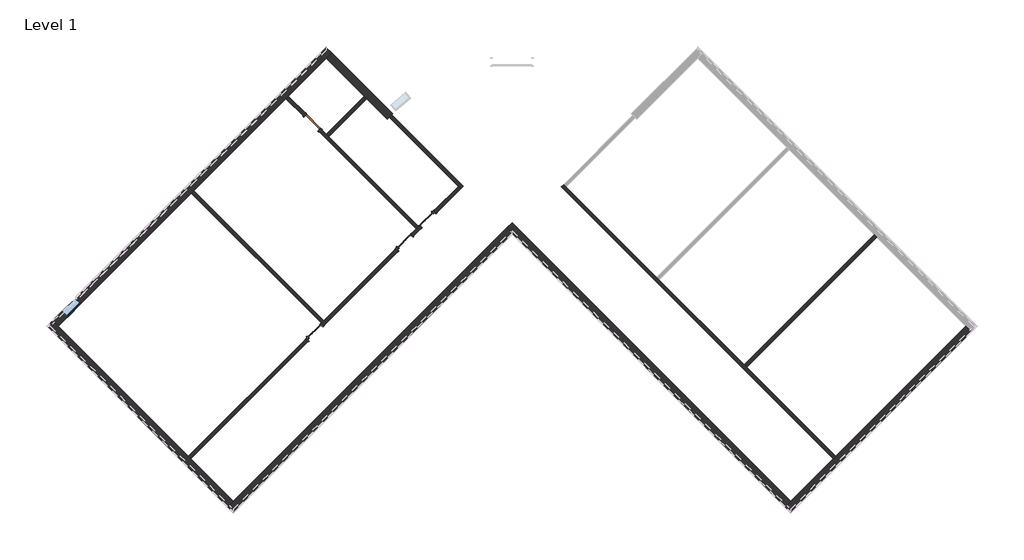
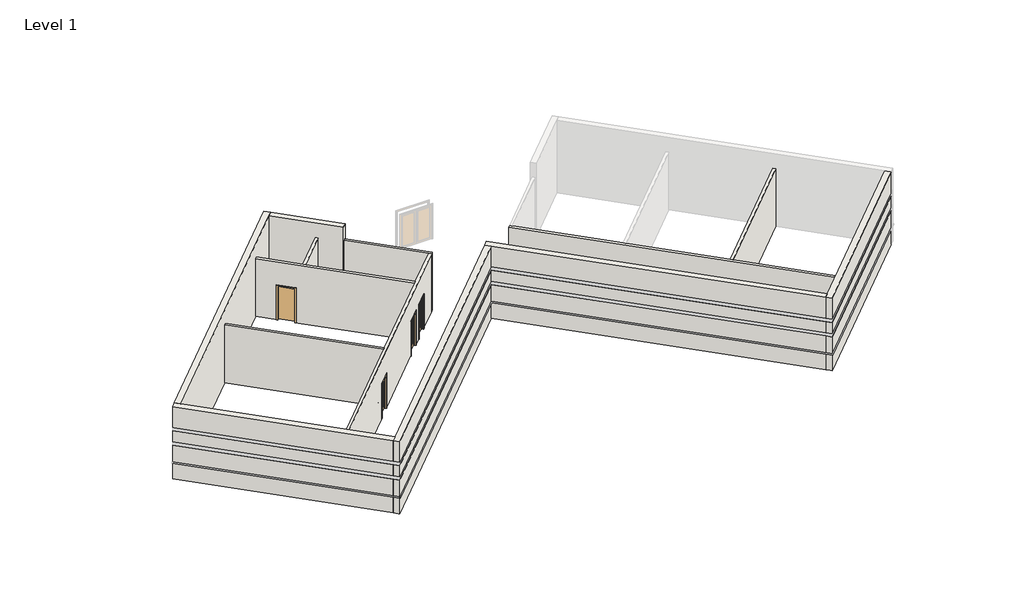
# One storey, part 1 of 2: 13 walls, 4 doors, 1 window.
"""IFC4 building model written with IfcOpenShell, lengths in millimetres."""

from ifc_helpers import new_model, si_unit, frame, origin, origin_with_axes, place, context, project, spatial, polyline, circle_curve, outline, extrude, faceted_brep, transform, mapped, element, save
from ifc_brep_helpers import plane_surface, cylinder_surface, revolved_surface, advanced_brep
from components import door_47956b35, door_87dbb2e6, door_9d26d547, window_15c49d37

model = new_model("IFC4")

# Units and contexts
model_context = context("Model", 3, world=origin())
ifc_project = project(units=[si_unit("LENGTHUNIT", "METRE", prefix="MILLI")], contexts=[model_context])

# Site, building, storey
site = spatial("IfcSite", under=ifc_project)
building = spatial("IfcBuilding", under=site)
storey = spatial("IfcBuildingStorey", under=building, Name="Level 1", Elevation=0.0)

# Doors
placement = place(None, origin())
door_shape = door_47956b35(model_context)
element("IfcDoor", 1, ObjectType="Door-Interior-Single-Full Glass-Wood : 36\" x 84\"", at=placement, inside=storey, context=model_context, shape_type="MappedRepresentation", body=[
    mapped(door_shape, transform((-12030.0168896, -1645.2399237, 0.0), x_axis=(0.7071067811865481, 0.7071067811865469, 0.0), y_axis=(-0.7071067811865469, 0.7071067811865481, 0.0), z_axis=(0.0, 0.0, 1.0))),
])
element("IfcDoor", 2, ObjectType="Door-Interior-Single-Full Glass-Wood : 36\" x 84\"", at=placement, inside=storey, context=model_context, shape_type="MappedRepresentation", body=[
    mapped(door_shape, transform((-7861.0507676, 2523.7261982, 0.0), x_axis=(0.7071067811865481, 0.7071067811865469, 0.0), y_axis=(-0.7071067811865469, 0.7071067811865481, 0.0), z_axis=(0.0, 0.0, 1.0))),
])
door_2_shape = door_87dbb2e6(model_context)
element("IfcDoor", 3, ObjectType="Door-Interior-Single-Full Glass-Wood : 36\" x 84\"", at=placement, inside=storey, context=model_context, shape_type="MappedRepresentation", body=[
    mapped(door_2_shape, transform((-6783.4200331, 3601.3569328, 0.0), x_axis=(-0.7071067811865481, -0.7071067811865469, 0.0), y_axis=(0.7071067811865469, -0.7071067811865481, 0.0), z_axis=(0.0, 0.0, 1.0))),
])
door_3_shape = door_9d26d547(model_context)
element("IfcDoor", 4, ObjectType="Door-Single-Panel : 36\" x 84\"", at=placement, inside=storey, context=model_context, shape_type="MappedRepresentation", body=[
    mapped(door_3_shape, transform((-12135.6526812, 8091.4849933, 0.0), x_axis=(0.7071067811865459, -0.7071067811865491, 0.0), y_axis=(0.7071067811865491, 0.7071067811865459, 0.0), z_axis=(0.0, 0.0, 1.0))),
])

# Walls
element("IfcWall", 5, ObjectType="Exterior - Split Face and CMU on Mtl. Stud", at=placement, inside=storey, context=model_context, shape_type="Brep", body=[
    faceted_brep([(18186.1821115, -1357.9895101, 4572.0), (10063.54045, -9480.6311716, 4572.0), (9814.3383427, -9729.833279, 4572.0), (10063.54045, -9979.0353863, 4572.0), (18435.3842189, -1607.1916175, 4572.0), (18186.1821115, -1357.9895101, 0.0), (12149.2049342, -7394.9666875, 0.0), (12039.1967967, -7504.974825, 0.0), (10063.54045, -9480.6311716, 0.0), (9814.3383427, -9729.833279, 0.0), (9814.3383427, -9729.833279, 1016.0), (9879.4451996, -9664.7264221, 1016.0), (9879.4451996, -9664.7264221, 1085.85), (9814.3383427, -9729.833279, 1085.85), (9814.3383427, -9729.833279, 2133.6), (9879.4451996, -9664.7264221, 2133.6), (9879.4451996, -9664.7264221, 2336.8), (9814.3383427, -9729.833279, 2336.8), (9814.3383427, -9729.833279, 3048.0), (9879.4451996, -9664.7264221, 3048.0), (9879.4451996, -9664.7264221, 3251.2), (9814.3383427, -9729.833279, 3251.2), (10063.54045, -9979.0353863, 3251.2), (18435.3842189, -1607.1916175, 3251.2), (10063.54045, -9979.0353863, 0.0), (18435.3842189, -1607.1916175, 0.0), (18435.3842189, -1607.1916175, 1016.0), (10063.54045, -9979.0353863, 1016.0), (10063.54045, -9979.0353863, 1085.85), (18435.3842189, -1607.1916175, 1085.85), (18435.3842189, -1607.1916175, 2133.6), (10063.54045, -9979.0353863, 2133.6), (10063.54045, -9979.0353863, 2336.8), (18435.3842189, -1607.1916175, 2336.8), (18435.3842189, -1607.1916175, 3048.0), (10063.54045, -9979.0353863, 3048.0), (18370.277362, -1542.0847606, 0.0), (9998.4335932, -9913.9285294, 0.0), (18370.277362, -1542.0847606, 3251.2), (18370.277362, -1542.0847606, 3048.0), (18370.277362, -1542.0847606, 2336.8), (18370.277362, -1542.0847606, 2133.6), (18370.277362, -1542.0847606, 1085.85), (18370.277362, -1542.0847606, 1016.0), (10063.54045, -9848.8216726, 1085.85), (10063.54045, -9848.8216726, 1016.0), (10063.54045, -9848.8216726, 2133.6), (10063.54045, -9848.8216726, 2336.8), (10063.54045, -9848.8216726, 3048.0), (10063.54045, -9848.8216726, 3251.2)], [[[0, 1, 2, 3, 4]], [[5, 6, 7, 8, 9, 10, 11, 12, 13, 14, 15, 16, 17, 18, 19, 20, 21, 2, 1, 0]], [[4, 3, 22, 23]], [[24, 25, 26, 27]], [[28, 29, 30, 31]], [[32, 33, 34, 35]], [[9, 8, 7, 6, 5, 36, 37]], [[5, 0, 4, 23, 38, 39, 34, 33, 40, 41, 30, 29, 42, 43, 26, 25, 36]], [[25, 24, 37, 36]], [[3, 2, 21, 22]], [[9, 37, 24, 27, 10]], [[13, 28, 31, 14]], [[17, 32, 35, 18]], [[12, 44, 42, 29, 28, 13]], [[43, 45, 11, 10, 27, 26]], [[44, 45, 43, 42]], [[45, 44, 12, 11]], [[41, 46, 15, 14, 31, 30]], [[16, 47, 40, 33, 32, 17]], [[47, 46, 41, 40]], [[46, 47, 16, 15]], [[39, 48, 19, 18, 35, 34]], [[20, 49, 38, 23, 22, 21]], [[49, 48, 39, 38]], [[48, 49, 20, 19]]]),
])
element("IfcWall", 6, ObjectType="Exterior - Split Face and CMU on Mtl. Stud", at=placement, inside=storey, context=model_context, shape_type="Brep", body=[
    faceted_brep([(10063.54045, -9480.6311716, 4572.0), (-2868.0283643, 3450.9376427, 4572.0), (-3117.2304717, 3201.7355354, 4572.0), (-2868.0283643, 2952.533428, 4572.0), (9814.3383427, -9729.833279, 4572.0), (10063.54045, -9480.6311716, 0.0), (-2868.0283643, 3450.9376427, 0.0), (-3117.2304717, 3201.7355354, 0.0), (-2868.0283643, 2952.533428, 0.0), (9814.3383427, -9729.833279, 0.0), (9814.3383427, -9729.833279, 1016.0), (-2868.0283643, 2952.533428, 1016.0), (-2933.1352212, 3017.6402849, 1016.0), (-2933.1352212, 3017.6402849, 1085.85), (-2868.0283643, 2952.533428, 1085.85), (9814.3383427, -9729.833279, 1085.85), (9814.3383427, -9729.833279, 2133.6), (-2868.0283643, 2952.533428, 2133.6), (-2933.1352212, 3017.6402849, 2133.6), (-2933.1352212, 3017.6402849, 2336.8), (-2868.0283643, 2952.533428, 2336.8), (9814.3383427, -9729.833279, 2336.8), (9814.3383427, -9729.833279, 3048.0), (-2868.0283643, 2952.533428, 3048.0), (-2933.1352212, 3017.6402849, 3048.0), (-2933.1352212, 3017.6402849, 3251.2), (-2868.0283643, 2952.533428, 3251.2), (9814.3383427, -9729.833279, 3251.2), (9879.4451996, -9664.7264221, 0.0), (-3052.1236148, 3266.8423923, 0.0), (9879.4451996, -9664.7264221, 3251.2), (9879.4451996, -9664.7264221, 3048.0), (9879.4451996, -9664.7264221, 2336.8), (9879.4451996, -9664.7264221, 2133.6), (9879.4451996, -9664.7264221, 1085.85), (9879.4451996, -9664.7264221, 1016.0), (-2868.0283643, 3082.7471418, 1085.85), (-2868.0283643, 3082.7471418, 1016.0), (-2868.0283643, 3082.7471418, 2133.6), (-2868.0283643, 3082.7471418, 2336.8), (-2868.0283643, 3082.7471418, 3048.0), (-2868.0283643, 3082.7471418, 3251.2)], [[[0, 1, 2, 3, 4]], [[5, 6, 1, 0]], [[4, 3, 2, 7, 8, 9, 10, 11, 12, 13, 14, 15, 16, 17, 18, 19, 20, 21, 22, 23, 24, 25, 26, 27]], [[6, 5, 28, 29]], [[5, 0, 4, 27, 30, 31, 22, 21, 32, 33, 16, 15, 34, 35, 10, 9, 28]], [[9, 8, 7, 29, 28]], [[1, 6, 29, 7, 2]], [[13, 36, 34, 15, 14]], [[35, 37, 12, 11, 10]], [[36, 37, 35, 34]], [[37, 36, 13, 12]], [[33, 38, 18, 17, 16]], [[19, 39, 32, 21, 20]], [[39, 38, 33, 32]], [[38, 39, 19, 18]], [[31, 40, 24, 23, 22]], [[25, 41, 30, 27, 26]], [[41, 40, 31, 30]], [[40, 41, 25, 24]]]),
])
element("IfcWall", 7, ObjectType="Exterior - Split Face and CMU on Mtl. Stud", at=placement, inside=storey, context=model_context, shape_type="Brep", body=[
    faceted_brep([(-3117.2304717, 3201.7355354, 4572.0), (-15799.5971786, -9480.6311716, 4572.0), (-16048.799286, -9729.833279, 4572.0), (-15799.5971786, -9979.0353863, 4572.0), (-2868.0283643, 2952.533428, 4572.0), (-3117.2304717, 3201.7355354, 0.0), (-15799.5971786, -9480.6311716, 0.0), (-16048.799286, -9729.833279, 0.0), (-16048.799286, -9729.833279, 1016.0), (-15983.6924291, -9664.7264221, 1016.0), (-15983.6924291, -9664.7264221, 1085.85), (-16048.799286, -9729.833279, 1085.85), (-16048.799286, -9729.833279, 2133.6), (-15983.6924291, -9664.7264221, 2133.6), (-15983.6924291, -9664.7264221, 2336.8), (-16048.799286, -9729.833279, 2336.8), (-16048.799286, -9729.833279, 3048.0), (-15983.6924291, -9664.7264221, 3048.0), (-15983.6924291, -9664.7264221, 3251.2), (-16048.799286, -9729.833279, 3251.2), (-15799.5971786, -9979.0353863, 3251.2), (-2868.0283643, 2952.533428, 3251.2), (-15799.5971786, -9979.0353863, 0.0), (-2868.0283643, 2952.533428, 0.0), (-2868.0283643, 2952.533428, 1016.0), (-15799.5971786, -9979.0353863, 1016.0), (-15799.5971786, -9979.0353863, 1085.85), (-2868.0283643, 2952.533428, 1085.85), (-2868.0283643, 2952.533428, 2133.6), (-15799.5971786, -9979.0353863, 2133.6), (-15799.5971786, -9979.0353863, 2336.8), (-2868.0283643, 2952.533428, 2336.8), (-2868.0283643, 2952.533428, 3048.0), (-15799.5971786, -9979.0353863, 3048.0), (-2933.1352212, 3017.6402849, 0.0), (-15864.7040355, -9913.9285294, 0.0), (-2933.1352212, 3017.6402849, 3251.2), (-2933.1352212, 3017.6402849, 3048.0), (-2933.1352212, 3017.6402849, 2336.8), (-2933.1352212, 3017.6402849, 2133.6), (-2933.1352212, 3017.6402849, 1085.85), (-2933.1352212, 3017.6402849, 1016.0), (-15799.5971786, -9848.8216726, 1085.85), (-15799.5971786, -9848.8216726, 1016.0), (-15799.5971786, -9848.8216726, 2133.6), (-15799.5971786, -9848.8216726, 2336.8), (-15799.5971786, -9848.8216726, 3048.0), (-15799.5971786, -9848.8216726, 3251.2)], [[[0, 1, 2, 3, 4]], [[5, 6, 7, 8, 9, 10, 11, 12, 13, 14, 15, 16, 17, 18, 19, 2, 1, 0]], [[4, 3, 20, 21]], [[22, 23, 24, 25]], [[26, 27, 28, 29]], [[30, 31, 32, 33]], [[7, 6, 5, 34, 35]], [[5, 0, 4, 21, 36, 37, 32, 31, 38, 39, 28, 27, 40, 41, 24, 23, 34]], [[23, 22, 35, 34]], [[3, 2, 19, 20]], [[7, 35, 22, 25, 8]], [[11, 26, 29, 12]], [[15, 30, 33, 16]], [[10, 42, 40, 27, 26, 11]], [[41, 43, 9, 8, 25, 24]], [[42, 43, 41, 40]], [[43, 42, 10, 9]], [[39, 44, 13, 12, 29, 28]], [[14, 45, 38, 31, 30, 15]], [[45, 44, 39, 38]], [[44, 45, 14, 13]], [[37, 46, 17, 16, 33, 32]], [[18, 47, 36, 21, 20, 19]], [[47, 46, 37, 36]], [[46, 47, 18, 17]]]),
])
element("IfcWall", 8, ObjectType="Exterior - Split Face and CMU on Mtl. Stud", at=placement, inside=storey, context=model_context, shape_type="Brep", body=[
    faceted_brep([(-15799.5971786, -9480.6311716, 4572.0), (-23922.2388402, -1357.9895101, 4572.0), (-24171.4409475, -1108.7874027, 4572.0), (-24420.6430549, -1357.9895101, 4572.0), (-16048.799286, -9729.833279, 4572.0), (-15799.5971786, -9480.6311716, 0.0), (-17775.2535253, -7504.974825, 0.0), (-17885.2616628, -7394.9666875, 0.0), (-23922.2388402, -1357.9895101, 0.0), (-24171.4409475, -1108.7874027, 0.0), (-24171.4409475, -1108.7874027, 1016.0), (-24106.3340906, -1173.8942596, 1016.0), (-24106.3340906, -1173.8942596, 1085.85), (-24171.4409475, -1108.7874027, 1085.85), (-24171.4409475, -1108.7874027, 2133.6), (-24106.3340906, -1173.8942596, 2133.6), (-24106.3340906, -1173.8942596, 2336.8), (-24171.4409475, -1108.7874027, 2336.8), (-24171.4409475, -1108.7874027, 3048.0), (-24106.3340906, -1173.8942596, 3048.0), (-24106.3340906, -1173.8942596, 3251.2), (-24171.4409475, -1108.7874027, 3251.2), (-24420.6430549, -1357.9895101, 3251.2), (-16048.799286, -9729.833279, 3251.2), (-24420.6430549, -1357.9895101, 0.0), (-16048.799286, -9729.833279, 0.0), (-16048.799286, -9729.833279, 1016.0), (-24420.6430549, -1357.9895101, 1016.0), (-24420.6430549, -1357.9895101, 1085.85), (-16048.799286, -9729.833279, 1085.85), (-16048.799286, -9729.833279, 2133.6), (-24420.6430549, -1357.9895101, 2133.6), (-24420.6430549, -1357.9895101, 2336.8), (-16048.799286, -9729.833279, 2336.8), (-16048.799286, -9729.833279, 3048.0), (-24420.6430549, -1357.9895101, 3048.0), (-15983.6924291, -9664.7264221, 0.0), (-24355.536198, -1292.8826532, 0.0), (-15983.6924291, -9664.7264221, 3251.2), (-15983.6924291, -9664.7264221, 3048.0), (-15983.6924291, -9664.7264221, 2336.8), (-15983.6924291, -9664.7264221, 2133.6), (-15983.6924291, -9664.7264221, 1085.85), (-15983.6924291, -9664.7264221, 1016.0), (-24290.4293411, -1357.9895101, 1085.85), (-24290.4293411, -1357.9895101, 1016.0), (-24290.4293411, -1357.9895101, 2133.6), (-24290.4293411, -1357.9895101, 2336.8), (-24290.4293411, -1357.9895101, 3048.0), (-24290.4293411, -1357.9895101, 3251.2)], [[[0, 1, 2, 3, 4]], [[5, 6, 7, 8, 9, 10, 11, 12, 13, 14, 15, 16, 17, 18, 19, 20, 21, 2, 1, 0]], [[4, 3, 22, 23]], [[24, 25, 26, 27]], [[28, 29, 30, 31]], [[32, 33, 34, 35]], [[9, 8, 7, 6, 5, 36, 37]], [[5, 0, 4, 23, 38, 39, 34, 33, 40, 41, 30, 29, 42, 43, 26, 25, 36]], [[25, 24, 37, 36]], [[3, 2, 21, 22]], [[9, 37, 24, 27, 10]], [[13, 28, 31, 14]], [[17, 32, 35, 18]], [[12, 44, 42, 29, 28, 13]], [[43, 45, 11, 10, 27, 26]], [[44, 45, 43, 42]], [[45, 44, 12, 11]], [[41, 46, 15, 14, 31, 30]], [[16, 47, 40, 33, 32, 17]], [[47, 46, 41, 40]], [[46, 47, 16, 15]], [[39, 48, 19, 18, 35, 34]], [[20, 49, 38, 23, 22, 21]], [[49, 48, 39, 38]], [[48, 49, 20, 19]]]),
])
element("IfcWall", 9, ObjectType="Exterior - Split Face and CMU on Mtl. Stud", at=placement, inside=storey, context=model_context, shape_type="Brep", body=[
    faceted_brep([(-23922.2388402, -1357.9895101, 4572.0), (-11489.0742405, 11075.1750895, 4572.0), (-11239.8721332, 11324.3771969, 4572.0), (-11489.0742405, 11573.5793042, 4572.0), (-24171.4409475, -1108.7874027, 4572.0), (-23922.2388402, -1357.9895101, 0.0), (-17743.7048466, 4820.5444835, 0.0), (-17633.6967091, 4930.552621, 0.0), (-13359.2125777, 9205.0367523, 0.0), (-13249.2044403, 9315.0448898, 0.0), (-11489.0742405, 11075.1750895, 0.0), (-11239.8721332, 11324.3771969, 0.0), (-11239.8721332, 11324.3771969, 1016.0), (-11304.9789901, 11259.27034, 1016.0), (-11304.9789901, 11259.27034, 1085.85), (-11239.8721332, 11324.3771969, 1085.85), (-11239.8721332, 11324.3771969, 2133.6), (-11304.9789901, 11259.27034, 2133.6), (-11304.9789901, 11259.27034, 2336.8), (-11239.8721332, 11324.3771969, 2336.8), (-11239.8721332, 11324.3771969, 3048.0), (-11304.9789901, 11259.27034, 3048.0), (-11304.9789901, 11259.27034, 3251.2), (-11239.8721332, 11324.3771969, 3251.2), (-23508.0245266, -943.7751965, 914.4), (-23508.0245266, -943.7751965, 2133.6), (-22861.4460859, -297.1967558, 2133.6), (-22861.4460859, -297.1967558, 914.4), (-11489.0742405, 11573.5793042, 3251.2), (-24171.4409475, -1108.7874027, 3251.2), (-11489.0742405, 11573.5793042, 0.0), (-24171.4409475, -1108.7874027, 0.0), (-24171.4409475, -1108.7874027, 1016.0), (-23757.2266339, -694.5730891, 1016.0), (-23757.2266339, -694.5730891, 914.4), (-23110.6481932, -47.9946484, 914.4), (-23110.6481932, -47.9946484, 1016.0), (-11489.0742405, 11573.5793042, 1016.0), (-23110.6481932, -47.9946484, 2133.6), (-23757.2266339, -694.5730891, 2133.6), (-23757.2266339, -694.5730891, 2336.8), (-24171.4409475, -1108.7874027, 2336.8), (-24171.4409475, -1108.7874027, 3048.0), (-11489.0742405, 11573.5793042, 3048.0), (-11489.0742405, 11573.5793042, 2336.8), (-23110.6481932, -47.9946484, 2336.8), (-23757.2266339, -694.5730891, 1085.85), (-24171.4409475, -1108.7874027, 1085.85), (-24171.4409475, -1108.7874027, 2133.6), (-23110.6481932, -47.9946484, 1085.85), (-11489.0742405, 11573.5793042, 2133.6), (-11489.0742405, 11573.5793042, 1085.85), (-24106.3340906, -1173.8942596, 0.0), (-11423.9673837, 11508.4724474, 0.0), (-24106.3340906, -1173.8942596, 3251.2), (-24106.3340906, -1173.8942596, 3048.0), (-24106.3340906, -1173.8942596, 2336.8), (-24106.3340906, -1173.8942596, 2133.6), (-24106.3340906, -1173.8942596, 1085.85), (-24106.3340906, -1173.8942596, 1016.0), (-23692.119777, -759.679946, 1016.0), (-23692.119777, -759.679946, 1085.85), (-23692.119777, -759.679946, 2133.6), (-23045.5413363, -113.1015053, 2133.6), (-23045.5413363, -113.1015053, 1085.85), (-23045.5413363, -113.1015053, 1016.0), (-11489.0742405, 11443.3655905, 1085.85), (-11489.0742405, 11443.3655905, 1016.0), (-23692.119777, -759.679946, 2133.6), (-23692.119777, -759.679946, 2336.8), (-23045.5413363, -113.1015053, 2133.6), (-23045.5413363, -113.1015053, 2336.8), (-11489.0742405, 11443.3655905, 2133.6), (-11489.0742405, 11443.3655905, 2336.8), (-11489.0742405, 11443.3655905, 3048.0), (-11489.0742405, 11443.3655905, 3251.2)], [[[0, 1, 2, 3, 4]], [[5, 6, 7, 8, 9, 10, 11, 12, 13, 14, 15, 16, 17, 18, 19, 20, 21, 22, 23, 2, 1, 0], [24, 25, 26, 27]], [[4, 3, 28, 29]], [[30, 31, 32, 33, 34, 35, 36, 37]], [[38, 39, 40, 41, 42, 43, 44, 45]], [[39, 46, 47, 48]], [[49, 38, 50, 51]], [[11, 10, 9, 8, 7, 6, 5, 52, 53]], [[5, 0, 4, 29, 54, 55, 42, 41, 56, 57, 48, 47, 58, 59, 32, 31, 52]], [[31, 30, 53, 52]], [[3, 2, 23, 28]], [[11, 53, 30, 37, 12]], [[15, 51, 50, 16]], [[19, 44, 43, 20]], [[25, 24, 34, 33, 60, 61, 46, 39, 62]], [[35, 34, 24, 27]], [[27, 26, 63, 38, 49, 64, 65, 36, 35]], [[39, 38, 63, 26, 25, 62]], [[61, 58, 47, 46]], [[59, 60, 33, 32]], [[58, 61, 60, 59]], [[66, 64, 49, 51, 15, 14]], [[65, 67, 13, 12, 37, 36]], [[64, 66, 67, 65]], [[67, 66, 14, 13]], [[68, 39, 48, 57]], [[40, 69, 56, 41]], [[39, 68, 69, 40]], [[69, 68, 57, 56]], [[70, 38, 45, 71]], [[38, 70, 72, 17, 16, 50]], [[70, 71, 73, 72]], [[71, 45, 44, 19, 18, 73]], [[72, 73, 18, 17]], [[55, 74, 21, 20, 43, 42]], [[22, 75, 54, 29, 28, 23]], [[75, 74, 55, 54]], [[74, 75, 22, 21]]]),
])
element("IfcWall", 10, ObjectType="Exterior - Split Face and CMU on Mtl. Stud", at=placement, inside=storey, context=model_context, shape_type="AdvancedBrep", body=[
    advanced_brep(
    [(-11489.0742405, 11075.1750895, 4572.0), (-8658.0122729, 8244.1131219, 4572.0), (-8413.2817722, 8497.7868359, 4572.0), (-8662.486224, 8746.9912878, 4572.0), (-11239.8721332, 11324.3771969, 4572.0), (-11489.0742405, 11075.1750895, 0.0), (-9728.9440408, 9315.0448898, 0.0), (-9618.9359033, 9205.0367523, 0.0), (-8658.0122729, 8244.1131219, 0.0), (-8413.2817722, 8497.7868359, 0.0), (-8662.486224, 8746.9912878, 0.0), (-11239.8721332, 11324.3771969, 0.0), (-11239.8721332, 11324.3771969, 1016.0), (-8662.486224, 8746.9912878, 1016.0), (-8597.3787742, 8681.8838379, 1016.0), (-8597.3787742, 8681.8838379, 1085.85), (-8662.486224, 8746.9912878, 1085.85), (-11239.8721332, 11324.3771969, 1085.85), (-11239.8721332, 11324.3771969, 2133.6), (-8662.486224, 8746.9912878, 2133.6), (-8597.3787742, 8681.8838379, 2133.6), (-8597.3787742, 8681.8838379, 2336.8), (-8662.486224, 8746.9912878, 2336.8), (-11239.8721332, 11324.3771969, 2336.8), (-11239.8721332, 11324.3771969, 3048.0), (-8662.486224, 8746.9912878, 3048.0), (-8597.3787742, 8681.8838379, 3048.0), (-8597.3787742, 8681.8838379, 3251.2), (-8662.486224, 8746.9912878, 3251.2), (-11239.8721332, 11324.3771969, 3251.2), (-11304.9789901, 11259.27034, 0.0), (-8478.2967797, 8432.5881297, 0.0), (-11304.9789901, 11259.27034, 3251.2), (-11304.9789901, 11259.27034, 3048.0), (-11304.9789901, 11259.27034, 2336.8), (-11304.9789901, 11259.27034, 2133.6), (-11304.9789901, 11259.27034, 1085.85), (-11304.9789901, 11259.27034, 1016.0), (-8662.3967205, 8616.6880705, 1085.85), (-8662.3967205, 8616.6880705, 1016.0), (-8662.3967205, 8616.6880705, 2336.8), (-8662.3967205, 8616.6880705, 2133.6), (-8662.3967205, 8616.6880705, 3251.2), (-8662.3967205, 8616.6880705, 3048.0)],
    [
        (0, 1),
        (1, 2, circle_curve(frame((-2868.0283643, 2903.1420194, 4572.0), z_axis=(0.0, 0.0, -1.0), x_axis=(1.0, 0.0, 0.0)), 7877.175)),
        (2, 3),
        (3, 4),
        (4, 0),
        (5, 6),
        (6, 7),
        (7, 8),
        (8, 1),
        (0, 5),
        (2, 9),
        (9, 10),
        (10, 11),
        (11, 12),
        (12, 13),
        (13, 14),
        (14, 15),
        (15, 16),
        (16, 17),
        (17, 18),
        (18, 19),
        (19, 20),
        (20, 21),
        (21, 22),
        (22, 23),
        (23, 24),
        (24, 25),
        (25, 26),
        (26, 27),
        (27, 28),
        (28, 29),
        (29, 4),
        (5, 30),
        (30, 31),
        (31, 8, circle_curve(frame((-2868.0283643, 2903.1420194, 0.0), z_axis=(0.0, 0.0, 1.0), x_axis=(1.0, 0.0, 0.0)), 7877.175)),
        (29, 32),
        (32, 33),
        (33, 24),
        (23, 34),
        (34, 35),
        (35, 18),
        (17, 36),
        (36, 37),
        (37, 12),
        (11, 30),
        (9, 31, circle_curve(frame((-2868.0283643, 2903.1420194, 0.0), z_axis=(0.0, 0.0, 1.0), x_axis=(1.0, 0.0, 0.0)), 7877.175)),
        (38, 39),
        (39, 37),
        (36, 38),
        (15, 38, circle_curve(frame((-2868.0283643, 2903.1420194, 1085.85), z_axis=(0.0, 0.0, 1.0), x_axis=(-0.7040995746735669, 0.7101012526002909, 0.0)), 8137.525)),
        (39, 14, circle_curve(frame((-2868.0283643, 2903.1420194, 1016.0), z_axis=(0.0, 0.0, -1.0), x_axis=(-0.7040995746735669, 0.7101012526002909, 0.0)), 8137.525)),
        (40, 41),
        (41, 35),
        (34, 40),
        (41, 20, circle_curve(frame((-2868.0283643, 2903.1420194, 2133.6), z_axis=(0.0, 0.0, -1.0), x_axis=(-0.7120553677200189, 0.7021233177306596, 0.0)), 8137.525)),
        (40, 21, circle_curve(frame((-2868.0283643, 2903.1420194, 2336.8), z_axis=(0.0, 0.0, -1.0), x_axis=(-0.7120553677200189, 0.7021233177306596, 0.0)), 8137.525)),
        (42, 43),
        (43, 33),
        (32, 42),
        (43, 26, circle_curve(frame((-2868.0283643, 2903.1420194, 3048.0), z_axis=(0.0, 0.0, -1.0), x_axis=(-0.7120553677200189, 0.7021233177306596, 0.0)), 8137.525)),
        (42, 27, circle_curve(frame((-2868.0283643, 2903.1420194, 3251.2), z_axis=(0.0, 0.0, -1.0), x_axis=(-0.7120553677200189, 0.7021233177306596, 0.0)), 8137.525)),
    ],
    [
        plane_surface(frame((-8786.2632499, 8372.3640989, 4572.0), z_axis=(0.0, 0.0, 1.0), x_axis=(0.7071067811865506, 0.7071067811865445, 0.0))),
        plane_surface(frame((-11738.2763479, 11324.3771969, 0.0), z_axis=(-0.7071067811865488, -0.7071067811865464, 0.0), x_axis=(0.7071067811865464, -0.7071067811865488, 0.0))),
        plane_surface(frame((-11489.0742405, 11573.5793042, 0.0), z_axis=(0.7071067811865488, 0.7071067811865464, 0.0), x_axis=(-0.7071067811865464, 0.7071067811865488, 0.0))),
        plane_surface(frame((-11613.6752942, 11199.7761432, 0.0), z_axis=(0.0, 0.0, -1.0000000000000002), x_axis=(0.7071067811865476, 0.7071067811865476, 0.0))),
        plane_surface(frame((-24171.4409475, -1607.1916175, 0.0), z_axis=(-0.7071067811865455, 0.7071067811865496, 0.0), x_axis=(0.7071067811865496, 0.7071067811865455, 0.0))),
        plane_surface(frame((0.0, 0.0, 0.0), z_axis=(0.0, 0.0, -1.0), x_axis=(1.0, 0.0, 0.0))),
        revolved_surface(polyline([(5009.146635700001, 2903.1420194, 0.0), (5009.146635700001, 2903.1420194, 4572.0)]), (-2868.0283643, 2903.1420194, 0.0), (0.0, 0.0, -1.0)),
        plane_surface(frame((-11489.0742405, 11443.3655905, 1016.0), z_axis=(0.7071067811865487, 0.7071067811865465, 0.0), x_axis=(0.7071067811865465, -0.7071067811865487, 0.0))),
        plane_surface(frame((-2868.0283643, 2903.1420194, 1085.85), z_axis=(0.0, 0.0, -1.0), x_axis=(-0.7040995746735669, 0.7101012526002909, 0.0))),
        plane_surface(frame((-2868.0283643, 2903.1420194, 1016.0), z_axis=(0.0, 0.0, 1.0), x_axis=(-0.7040995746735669, 0.7101012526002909, 0.0))),
        cylinder_surface(frame((-2868.0283643, 2903.1420194, 1016.0), z_axis=(0.0, 0.0, -1.0), x_axis=(-0.7040995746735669, 0.7101012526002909, 0.0)), 8137.525),
        plane_surface(frame((-11489.0742405, 11443.3655905, 2133.6), z_axis=(0.7071067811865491, 0.7071067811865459, 0.0), x_axis=(0.7071067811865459, -0.7071067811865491, 0.0))),
        plane_surface(frame((-2868.0283643, 2903.1420194, 2133.6), z_axis=(0.0, 0.0, 1.0), x_axis=(-0.7120553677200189, 0.7021233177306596, 0.0))),
        cylinder_surface(frame((-2868.0283643, 2903.1420194, 2133.6), z_axis=(0.0, 0.0, -1.0), x_axis=(-0.7120553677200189, 0.7021233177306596, 0.0)), 8137.525),
        plane_surface(frame((-2868.0283643, 2903.1420194, 2336.8), z_axis=(0.0, 0.0, -1.0), x_axis=(-0.7120553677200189, 0.7021233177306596, 0.0))),
        plane_surface(frame((-11489.0742405, 11443.3655905, 3048.0), z_axis=(0.7071067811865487, 0.7071067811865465, 0.0), x_axis=(0.7071067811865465, -0.7071067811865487, 0.0))),
        plane_surface(frame((-2868.0283643, 2903.1420194, 3048.0), z_axis=(0.0, 0.0, 1.0), x_axis=(-0.7120553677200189, 0.7021233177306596, 0.0))),
        cylinder_surface(frame((-2868.0283643, 2903.1420194, 3048.0), z_axis=(0.0, 0.0, -1.0), x_axis=(-0.7120553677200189, 0.7021233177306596, 0.0)), 8137.525),
        plane_surface(frame((-2868.0283643, 2903.1420194, 3251.2), z_axis=(0.0, 0.0, -1.0), x_axis=(-0.7120553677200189, 0.7021233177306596, 0.0))),
    ],
    [
        (0, [[1, 2, 3, 4, 5]]),
        (1, [[6, 7, 8, 9, -1, 10]]),
        (2, [[-4, -3, 11, 12, 13, 14, 15, 16, 17, 18, 19, 20, 21, 22, 23, 24, 25, 26, 27, 28, 29, 30, 31, 32]]),
        (3, [[-8, -7, -6, 33, 34, 35]]),
        (4, [[-10, -5, -32, 36, 37, 38, -26, 39, 40, 41, -20, 42, 43, 44, -14, 45, -33]]),
        (5, [[-13, -12, 46, -34, -45]]),
        (6, [[-9, -35, -46, -11, -2]]),
        (7, [[47, 48, -43, 49]]),
        (8, [[50, -49, -42, -19, -18]]),
        (9, [[-48, 51, -16, -15, -44]]),
        (10, [[-47, -50, -17, -51]]),
        (11, [[52, 53, -40, 54]]),
        (12, [[-53, 55, -22, -21, -41]]),
        (13, [[-52, 56, -23, -55]]),
        (14, [[-56, -54, -39, -25, -24]]),
        (15, [[57, 58, -37, 59]]),
        (16, [[-58, 60, -28, -27, -38]]),
        (17, [[-57, 61, -29, -60]]),
        (18, [[-61, -59, -36, -31, -30]]),
    ],
),
])
element("IfcWall", 11, ObjectType="Interior - 6 1/8\" Partition (2-hr)", at=placement, inside=storey, context=model_context, shape_type="Brep", body=[
    faceted_brep([(-17775.2535253, -7504.974825, 0.0), (-17885.2616628, -7394.9666875, 0.0), (-12424.0256269, -1933.7306516, 0.0), (-12314.0174894, -2043.7387891, 0.0), (-5348.5885532, 5141.7064221, 0.0), (-5238.5804157, 5031.6982846, 0.0), (-6384.9211677, 3885.3575326, 0.0), (-6494.9293052, 3995.3656701, 0.0), (-11631.5180242, -1361.2393239, 0.0), (-11741.5261617, -1251.2311864, 0.0), (-11706.7276692, -1216.4326939, 0.0), (-11596.7195317, -1106.4245564, 0.0), (-8255.0595049, 2235.2354703, 0.0), (-8145.0513674, 2125.2273329, 0.0), (-7462.5519022, 2807.7267981, 0.0), (-7572.5600397, 2917.7349356, 0.0), (-7322.2354004, 3168.0595749, 0.0), (-7212.2272629, 3278.0677124, 0.0), (-7177.4287704, 3312.8662049, 0.0), (-7067.4206329, 3202.8580674, 0.0), (-17775.2535253, -7504.974825, 3657.6), (-5238.5804157, 5031.6982846, 3657.6), (-5348.5885532, 5141.7064221, 3657.6), (-7212.2272629, 3278.0677124, 3657.6), (-7322.2354004, 3168.0595749, 3657.6), (-11596.7195317, -1106.4245564, 3657.6), (-11706.7276692, -1216.4326939, 3657.6), (-17885.2616628, -7394.9666875, 3657.6), (-12314.0174894, -2043.7387891, 2159.0), (-11631.5180242, -1361.2393239, 2159.0), (-8145.0513674, 2125.2273329, 2159.0), (-7462.5519022, 2807.7267981, 2159.0), (-7067.4206329, 3202.8580674, 2159.0), (-6384.9211677, 3885.3575326, 2159.0), (-6494.9293052, 3995.3656701, 2159.0), (-7177.4287704, 3312.8662049, 2159.0), (-7572.5600397, 2917.7349356, 2159.0), (-8255.0595049, 2235.2354703, 2159.0), (-11741.5261617, -1251.2311864, 2159.0), (-12424.0256269, -1933.7306516, 2159.0)], [[[0, 1, 2, 3]], [[4, 5, 6, 7]], [[8, 9, 10, 11, 12, 13]], [[14, 15, 16, 17, 18, 19]], [[20, 21, 22, 23, 24, 25, 26, 27]], [[21, 20, 0, 3, 28, 29, 8, 13, 30, 31, 14, 19, 32, 33, 6, 5]], [[27, 26, 25, 24, 23, 22, 4, 7, 34, 35, 18, 17, 16, 15, 36, 37, 12, 11, 10, 9, 38, 39, 2, 1]], [[0, 20, 27, 1]], [[21, 5, 4, 22]], [[29, 38, 9, 8]], [[38, 29, 28, 39]], [[39, 28, 3, 2]], [[31, 36, 15, 14]], [[36, 31, 30, 37]], [[37, 30, 13, 12]], [[35, 32, 19, 18]], [[32, 35, 34, 33]], [[33, 34, 7, 6]]]),
])
element("IfcWall", 12, ObjectType="Interior - 6 1/8\" Partition (2-hr)", at=placement, inside=storey, context=model_context, shape_type="Brep", body=[
    faceted_brep([(-7322.2354004, 3168.0595749, 0.0), (-11867.3675296, 7713.1917042, 0.0), (-11757.3593921, 7823.1998417, 0.0), (-11489.0742405, 7554.9146901, 0.0), (-11379.066103, 7444.9065526, 0.0), (-7212.2272629, 3278.0677124, 0.0), (-12513.9459703, 8359.7701449, 0.0), (-13359.2125777, 9205.0367523, 0.0), (-13249.2044403, 9315.0448898, 0.0), (-12403.9378329, 8469.7782824, 0.0), (-7212.2272629, 3278.0677124, 3657.6), (-11379.066103, 7444.9065526, 3657.6), (-11489.0742405, 7554.9146901, 3657.6), (-13249.2044403, 9315.0448898, 3657.6), (-13359.2125777, 9205.0367523, 3657.6), (-7322.2354004, 3168.0595749, 3657.6), (-11757.3593921, 7823.1998417, 2133.6), (-12403.9378329, 8469.7782824, 2133.6), (-11867.3675296, 7713.1917042, 2133.6), (-12513.9459703, 8359.7701449, 2133.6)], [[[0, 1, 2, 3, 4, 5]], [[6, 7, 8, 9]], [[10, 11, 12, 13, 14, 15]], [[5, 4, 3, 2, 16, 17, 9, 8, 13, 12, 11, 10]], [[18, 1, 0, 15, 14, 7, 6, 19]], [[13, 8, 7, 14]], [[5, 10, 15, 0]], [[16, 2, 1, 18]], [[17, 16, 18, 19]], [[9, 17, 19, 6]]]),
])
element("IfcWall", 13, ObjectType="Interior - 6 1/8\" Partition (2-hr)", at=placement, inside=storey, context=model_context, shape_type="AdvancedBrep", body=[
    advanced_brep(
    [(-5128.5722782, 5141.7064221, 0.0), (-8449.0111375, 8462.1452813, 0.0), (-8449.0111375, 8462.1452813, 3657.6), (-5128.5722782, 5141.7064221, 3657.6), (-5238.5804157, 5031.6982846, 0.0), (-5238.5804157, 5031.6982846, 3657.6), (-5348.5885532, 5141.7064221, 3657.6), (-8557.7157352, 8350.8336041, 3657.6), (-8557.7157352, 8350.8336041, 0.0), (-5348.5885532, 5141.7064221, 0.0)],
    [
        (0, 1),
        (1, 2),
        (2, 3),
        (3, 0),
        (4, 5),
        (5, 6),
        (6, 7),
        (7, 8),
        (8, 9),
        (9, 4),
        (0, 4),
        (8, 1, circle_curve(frame((-2868.0283643, 2903.1420194, 0.0), z_axis=(0.0, 0.0, -1.0), x_axis=(1.0, 0.0, 0.0)), 7877.175)),
        (2, 7, circle_curve(frame((-2868.0283643, 2903.1420194, 3657.6), z_axis=(0.0, 0.0, 1.0), x_axis=(1.0, 0.0, 0.0)), 7877.175)),
        (5, 3),
    ],
    [
        plane_surface(frame((-5183.576347, 5196.7104908, 0.0), z_axis=(0.7071067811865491, 0.7071067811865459, 0.0), x_axis=(-0.7071067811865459, 0.7071067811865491, 0.0))),
        plane_surface(frame((-5293.5844845, 5086.7023533, 0.0), z_axis=(-0.7071067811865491, -0.7071067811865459, 0.0), x_axis=(0.7071067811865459, -0.7071067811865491, 0.0))),
        plane_surface(frame((-5183.576347, 5196.7104908, 0.0), z_axis=(0.0, 0.0, -1.0), x_axis=(-0.707106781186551, -0.7071067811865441, 0.0))),
        plane_surface(frame((-8573.2406241, 8586.374768, 3657.6), z_axis=(0.0, 0.0, 1.0), x_axis=(-0.707106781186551, -0.7071067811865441, 0.0))),
        plane_surface(frame((-17899.854579, -7629.5758786, 0.0), z_axis=(0.7071067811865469, -0.7071067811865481, 0.0), x_axis=(0.7071067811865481, 0.7071067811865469, 0.0))),
        cylinder_surface(frame((-2868.0283643, 2903.1420194, 0.0), z_axis=(0.0, 0.0, -1.0), x_axis=(1.0, 0.0, 0.0)), 7877.175),
    ],
    [
        (0, [[1, 2, 3, 4]]),
        (1, [[5, 6, 7, 8, 9, 10]]),
        (2, [[-1, 11, -10, -9, 12]]),
        (3, [[-3, 13, -7, -6, 14]]),
        (4, [[-4, -14, -5, -11]]),
        (5, [[-2, -12, -8, -13]]),
    ],
),
])
element("IfcWall", 14, ObjectType="Interior - 6 1/8\" Partition (2-hr)", at=placement, inside=storey, context=model_context, shape_type="SweptSolid", body=[
    extrude(outline(polyline([(-11489.0742405, 7554.9146901), (-9728.9440408, 9315.0448898), (-9618.9359033, 9205.0367523), (-11379.066103, 7444.9065526), (-11489.0742405, 7554.9146901)])), origin_with_axes(), (0.0, 0.0, 1.0), 3657.6),
])
element("IfcWall", 15, ObjectType="Interior - 6 1/8\" Partition (2-hr)", at=placement, inside=storey, context=model_context, shape_type="SweptSolid", body=[
    extrude(outline(polyline([(-17633.6967091, 4930.552621), (-11596.7195317, -1106.4245564), (-11706.7276692, -1216.4326939), (-17743.7048466, 4820.5444835), (-17633.6967091, 4930.552621)])), origin_with_axes(), (0.0, 0.0, 1.0), 3657.6),
])
element("IfcWall", 16, ObjectType="Interior - 6 1/8\" Partition (2-hr)", at=placement, inside=storey, context=model_context, shape_type="Brep", body=[
    faceted_brep([(12149.2049342, -7394.9666875, 0.0), (8018.2871185, -3264.0488718, 0.0), (7908.278981, -3154.0407343, 0.0), (3956.9662877, 797.271959, 0.0), (3846.9581502, 907.2800964, 0.0), (-353.5566504, 5107.7948971, 0.0), (-463.5647879, 5217.8030346, 0.0), (-463.5647879, 5217.8030346, 3657.6), (-353.5566504, 5107.7948971, 3657.6), (3846.9581502, 907.2800964, 3657.6), (3956.9662877, 797.271959, 3657.6), (7908.278981, -3154.0407343, 3657.6), (8018.2871185, -3264.0488718, 3657.6), (12149.2049342, -7394.9666875, 3657.6), (12039.1967967, -7504.974825, 0.0), (12039.1967967, -7504.974825, 3657.6), (-573.5729254, 5107.7948971, 3657.6), (-573.5729254, 5107.7948971, 0.0)], [[[0, 1, 2, 3, 4, 5, 6, 7, 8, 9, 10, 11, 12, 13]], [[14, 15, 16, 17]], [[6, 5, 4, 3, 2, 1, 0, 14, 17]], [[13, 12, 11, 10, 9, 8, 7, 16, 15]], [[7, 6, 17, 16]], [[0, 13, 15, 14]]]),
])
element("IfcWall", 17, ObjectType="Interior - 6 1/8\" Partition (2-hr)", at=placement, inside=storey, context=model_context, shape_type="SweptSolid", body=[
    extrude(outline(polyline([(7908.278981, -3154.0407343), (13945.2561584, 2882.9364431), (14055.2642958, 2772.9283056), (8018.2871185, -3264.0488718), (7908.278981, -3154.0407343)])), origin_with_axes(), (0.0, 0.0, 1.0), 3657.6),
])

# Window
window_shape = window_15c49d37(model_context)
element("IfcWindow", 18, ObjectType="Fixed : 36\" x 48\"", at=placement, inside=storey, context=model_context, shape_type="MappedRepresentation", body=[
    mapped(window_shape, transform((-23336.2771283, -522.8256908, 0.0), x_axis=(-0.7071067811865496, -0.7071067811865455, 0.0), y_axis=(0.7071067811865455, -0.7071067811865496, 0.0), z_axis=(0.0, 0.0, 1.0))),
])

save(model, "model.ifc")
